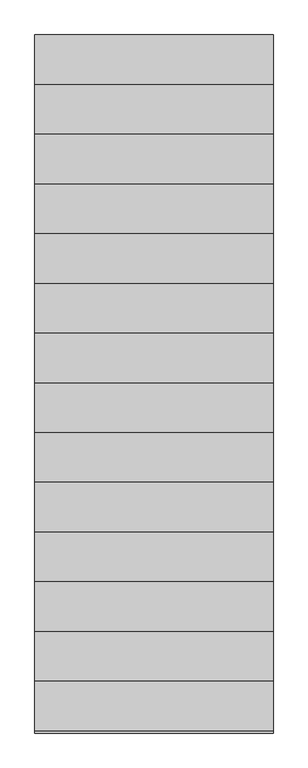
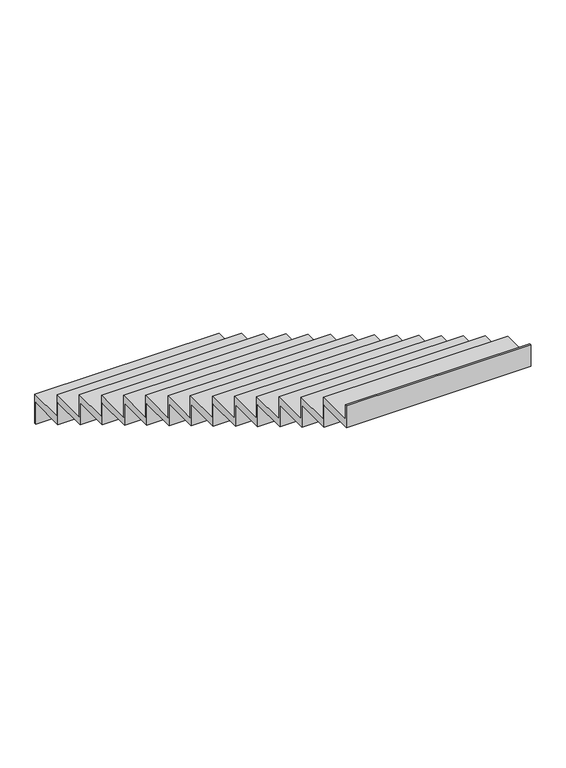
"""IFC4 building model written with IfcOpenShell, lengths in millimetres: stair flight geometry, Run_Stair_Non-Monolithic_50Treadx10Rise_Generic."""

from ifc_helpers import new_model, si_unit, frame, origin, place, context, project, spatial, polyline, outline, extrude, source, transform, mapped, element, save


def stair_flight_164fe082(model_context):
    return source(origin(), model_context, "Body", "SweptSolid", [
        extrude(outline(polyline([(-382775.0026386, 2200.0), (-382785.0026386, 2200.0), (-382785.0026386, 2350.0), (-383035.0026386, 2350.0), (-383035.0026386, 2500.0), (-383285.0026386, 2500.0), (-383285.0026386, 2650.0), (-383535.0026386, 2650.0), (-383535.0026386, 2800.0), (-383785.0026386, 2800.0), (-383785.0026386, 2950.0), (-384035.0026386, 2950.0), (-384035.0026386, 3100.0), (-384285.0026386, 3100.0), (-384285.0026386, 3250.0), (-384535.0026386, 3250.0), (-384535.0026386, 3400.0), (-384785.0026386, 3400.0), (-384785.0026386, 3550.0), (-385035.0026386, 3550.0), (-385035.0026386, 3700.0), (-385285.0026386, 3700.0), (-385285.0026386, 3850.0), (-385535.0026386, 3850.0), (-385535.0026386, 4000.0), (-385785.0026386, 4000.0), (-385785.0026386, 4150.0), (-386035.0026386, 4150.0), (-386035.0026386, 4300.0), (-386285.0026386, 4300.0), (-386285.0026386, 4450.0), (-386275.0026386, 4450.0), (-386275.0026386, 4350.0), (-386025.0026386, 4350.0), (-386025.0026386, 4200.0), (-385775.0026386, 4200.0), (-385775.0026386, 4050.0), (-385525.0026386, 4050.0), (-385525.0026386, 3900.0), (-385275.0026386, 3900.0), (-385275.0026386, 3750.0), (-385025.0026386, 3750.0), (-385025.0026386, 3600.0), (-384775.0026386, 3600.0), (-384775.0026386, 3450.0), (-384525.0026386, 3450.0), (-384525.0026386, 3300.0), (-384275.0026386, 3300.0), (-384275.0026386, 3150.0), (-384025.0026386, 3150.0), (-384025.0026386, 3000.0), (-383775.0026386, 3000.0), (-383775.0026386, 2850.0), (-383525.0026386, 2850.0), (-383525.0026386, 2700.0), (-383275.0026386, 2700.0), (-383275.0026386, 2550.0), (-383025.0026386, 2550.0), (-383025.0026386, 2400.0), (-382775.0026386, 2400.0), (-382775.0026386, 2200.0)])), frame((444513.3206883, 0.0, 0.0), z_axis=(1.0, 0.0, 0.0), x_axis=(0.0, 1.0, 0.0)), (0.0, 0.0, 1.0), 1200.0),
    ])


if __name__ == "__main__":
    model = new_model("IFC4")
    model_context = context("Model", 3, world=origin())
    ifc_project = project(units=[si_unit("LENGTHUNIT", "METRE", prefix="MILLI")], contexts=[model_context])
    site = spatial("IfcSite", under=ifc_project)
    building = spatial("IfcBuilding", under=site)
    placement = place(None, origin())
    stair_flight_shape = stair_flight_164fe082(model_context)
    element("IfcStairFlight", 1, ObjectType="Run_Stair_Non-Monolithic_50Treadx10Rise_Generic", at=placement, inside=building, context=model_context, shape_type="MappedRepresentation", body=[
        mapped(stair_flight_shape, transform((0.0, 0.0, 0.0), x_axis=(1.0, 0.0, 0.0), y_axis=(0.0, 1.0, 0.0), z_axis=(0.0, 0.0, 1.0))),
    ])
    save(model, "model.ifc")
